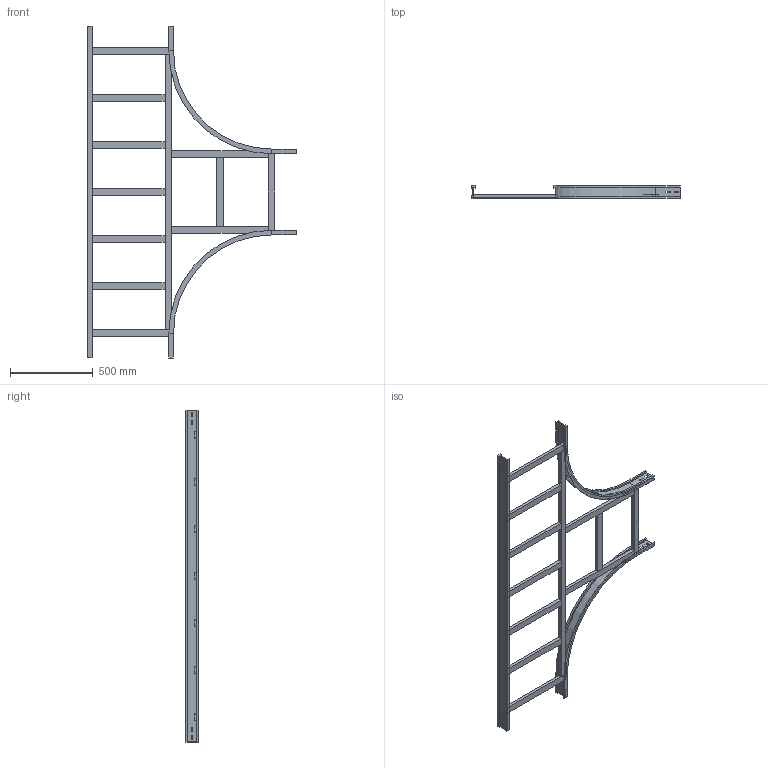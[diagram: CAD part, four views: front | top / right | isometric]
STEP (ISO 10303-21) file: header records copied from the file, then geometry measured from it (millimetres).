
FILE_DESCRIPTION (( 'STEP AP214' ), '1' );
FILE_NAME ('15S6C500.step', '2025-02-21T16:15:26', ( '' ), ( '' ), 'SwSTEP 2.0', 'SolidWorks 2023', '' );
FILE_SCHEMA (( 'AUTOMOTIVE_DESIGN' ));
Length unit declared in the file: millimetre
Products named in the file (8): TRAVERSINO_INTERMEDIO_R600+500; TRAVERSINO_LONG._R600+500; TRAVERSINO_VERT_R600; 15S6C500; LONGH.RETT_H75_R600+500; TRAVERSINO_COPPIA_500; LONGH.INTERNO 90°_H75_R600; TRAVERSINO_500
Assembly tree (15 placements, depth 2):
  15S6C500
    LONGH.INTERNO 90°_H75_R600  x2
    LONGH.RETT_H75_R600+500
    TRAVERSINO_500  x3
    TRAVERSINO_LONG._R600+500
    TRAVERSINO_INTERMEDIO_R600+500  x5
    TRAVERSINO_VERT_R600  x2
    TRAVERSINO_COPPIA_500
Bounding box: 1259 x 75 x 2000 mm (x, y, z)
Volume: 7886426.8 mm3; surface area: 1975735.9 mm2
Topology: 15 solids, 15 shells, 210 faces, 492 edges, 312 vertices
Faces by surface type: plane 198, cylinder 12
Entity records: 3589 total; most frequent: CARTESIAN_POINT 584, ORIENTED_EDGE 552, DIRECTION 552, EDGE_CURVE 276, VECTOR 264, LINE 264, VERTEX_POINT 176, AXIS2_PLACEMENT_3D 144
